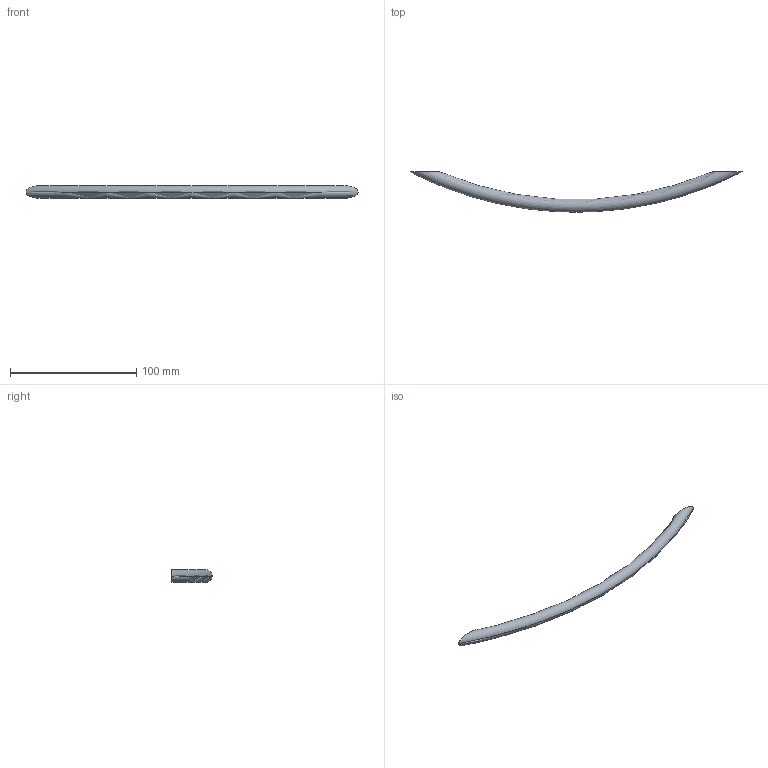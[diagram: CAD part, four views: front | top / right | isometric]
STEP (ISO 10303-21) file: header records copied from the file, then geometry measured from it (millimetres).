
FILE_DESCRIPTION( ( '' ), '1' );
FILE_NAME( 'D:/1.AUTOCAD EXPORT/Group 10/sheet_10_1/ 9070504.stp', '2013-10-22T03:13:31', ( '' ), ( '' ), ' ', ' ', ' ' );
FILE_SCHEMA( ( 'automotive_design' ) );
Length unit declared in the file: millimetre
Products named in the file (1): 1
Bounding box: 263 x 32 x 10 mm (x, y, z)
Volume: 19343.1 mm3; surface area: 8311.7 mm2
Topology: 1 solids, 1 shells, 10 faces, 18 edges, 12 vertices
Faces by surface type: cylinder 4, plane 4, torus 2
Entity records: 694 total; most frequent: CARTESIAN_POINT 237, DIRECTION 46, STYLED_ITEM 41, PRESENTATION_STYLE_ASSIGNMENT 41, COLOUR_RGB 41, ORIENTED_EDGE 36, AXIS2_PLACEMENT_3D 21, EDGE_CURVE 18
